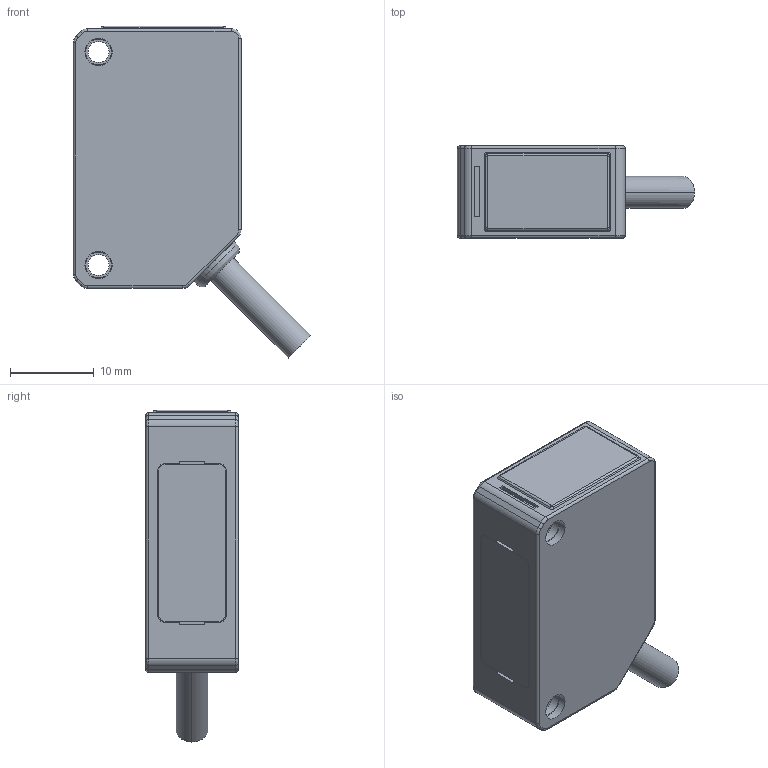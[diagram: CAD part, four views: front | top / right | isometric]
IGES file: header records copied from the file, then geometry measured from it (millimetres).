
Start section: Elysium IGES Interface
Global section: file name: 149H\\fadev.optexgroup.co.jp\技術情報\01_CAD\CAD_data\Horiike_fanas_kyoto\X166_W100-2_IO_LINK\外形寸法図\3D data\IGES\Z4_Cable_Type_Thru-Beam_Emitter.igs; native system: CoCreate Modeling 16.50A  01-Dec-2009; preprocessor: CoCreate IGES_3D V2.2; author: Unknown; organization: Unknown; date: 20191004.153612; units: millimetre
Bounding box: 28.29 x 11 x 39.59 mm (x, y, z)
Volume: 6630.5 mm3; surface area: 2727 mm2
Topology: 1 solids, 1 shells, 143 faces, 338 edges, 210 vertices
Faces by surface type: bspline 143
